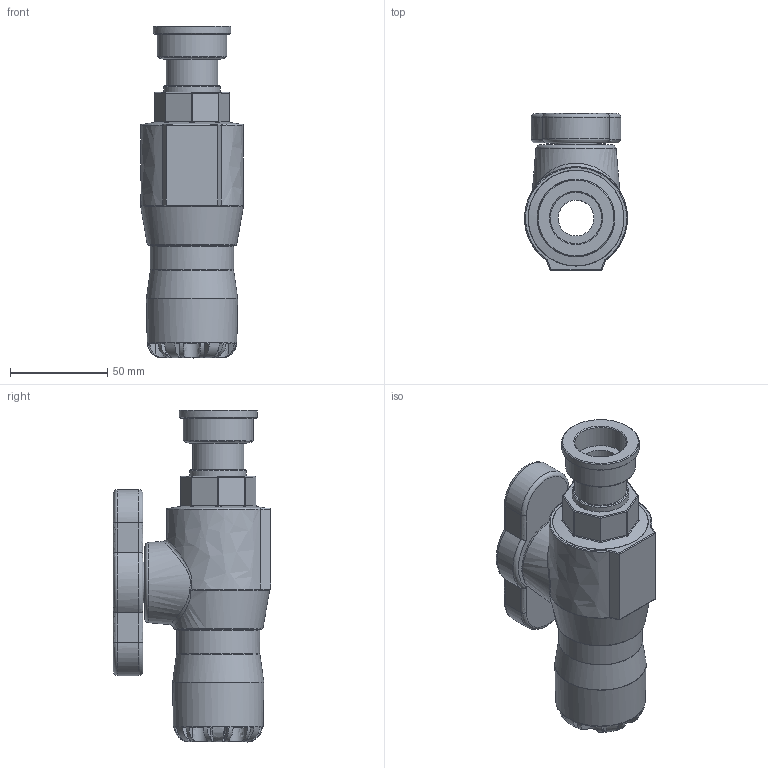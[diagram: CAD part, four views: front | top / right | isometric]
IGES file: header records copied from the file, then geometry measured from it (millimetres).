
Global section: file name: 0371016S00025007_0371016SF0025007; native system: Autodesk Inventor 2019; preprocessor: unknown; author: Lenora; date: 20220418.194403; units: millimetre
Bounding box: 52.97 x 81 x 171 mm (x, y, z)
Volume: 279820.9 mm3; surface area: 52185.6 mm2
Topology: 1 solids, 1 shells, 232 faces, 574 edges, 356 vertices
Faces by surface type: bspline 232
